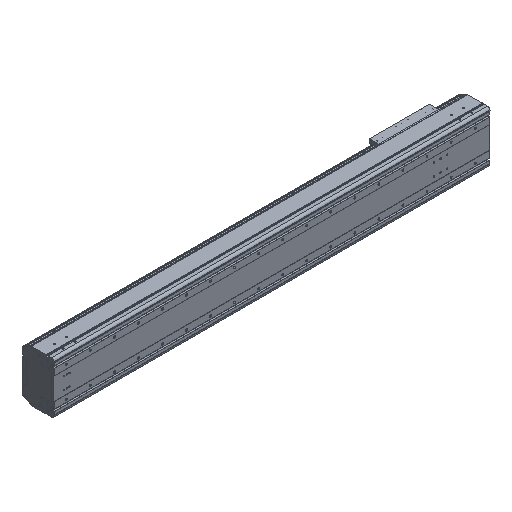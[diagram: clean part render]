
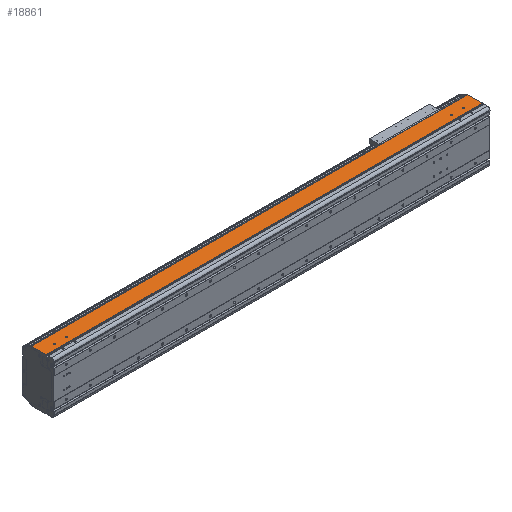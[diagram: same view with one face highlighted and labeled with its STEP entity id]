
A CAD part, isometric view. The second image highlights one B-rep face of the part: STEP entity #18861.
In plain terms, the highlighted planar face has unit normal (0, 0, 1).
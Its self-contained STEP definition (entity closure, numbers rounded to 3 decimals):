
#1618=DIRECTION('',(0.,-1.,0.));
#1619=VECTOR('',#1618,2.55);
#1620=CARTESIAN_POINT('',(0.,34.65,107.));
#1621=LINE('',#1620,#1619);
#2101=DIRECTION('',(1.,0.,0.));
#2102=VECTOR('',#2101,2.);
#2103=CARTESIAN_POINT('',(-1811.,34.65,107.));
#2104=LINE('',#2103,#2102);
#2105=CARTESIAN_POINT('',(-54.5,54.,107.));
#2106=DIRECTION('',(0.,0.,-1.));
#2107=DIRECTION('',(1.,0.,0.));
#2108=AXIS2_PLACEMENT_3D('',#2105,#2106,#2107);
#2110=CARTESIAN_POINT('',(-54.5,54.,107.));
#2111=DIRECTION('',(0.,0.,-1.));
#2112=DIRECTION('',(-1.,0.,0.));
#2113=AXIS2_PLACEMENT_3D('',#2110,#2111,#2112);
#2115=CARTESIAN_POINT('',(-104.5,54.,107.));
#2116=DIRECTION('',(0.,0.,-1.));
#2117=DIRECTION('',(1.,0.,0.));
#2118=AXIS2_PLACEMENT_3D('',#2115,#2116,#2117);
#2120=CARTESIAN_POINT('',(-104.5,54.,107.));
#2121=DIRECTION('',(0.,0.,-1.));
#2122=DIRECTION('',(-1.,0.,0.));
#2123=AXIS2_PLACEMENT_3D('',#2120,#2121,#2122);
#2125=CARTESIAN_POINT('',(-1754.5,54.,107.));
#2126=DIRECTION('',(0.,0.,-1.));
#2127=DIRECTION('',(1.,0.,0.));
#2128=AXIS2_PLACEMENT_3D('',#2125,#2126,#2127);
#2130=CARTESIAN_POINT('',(-1754.5,54.,107.));
#2131=DIRECTION('',(0.,0.,-1.));
#2132=DIRECTION('',(-1.,0.,0.));
#2133=AXIS2_PLACEMENT_3D('',#2130,#2131,#2132);
#2135=CARTESIAN_POINT('',(-1704.5,54.,107.));
#2136=DIRECTION('',(0.,0.,-1.));
#2137=DIRECTION('',(1.,0.,0.));
#2138=AXIS2_PLACEMENT_3D('',#2135,#2136,#2137);
#2140=CARTESIAN_POINT('',(-1704.5,54.,107.));
#2141=DIRECTION('',(0.,0.,-1.));
#2142=DIRECTION('',(-1.,0.,0.));
#2143=AXIS2_PLACEMENT_3D('',#2140,#2141,#2142);
#2145=DIRECTION('',(0.,-1.,0.));
#2146=VECTOR('',#2145,2.55);
#2147=CARTESIAN_POINT('',(-1809.,34.65,107.));
#2148=LINE('',#2147,#2146);
#2149=DIRECTION('',(0.,-1.,0.));
#2150=VECTOR('',#2149,58.85);
#2151=CARTESIAN_POINT('',(-1811.,93.5,107.));
#2152=LINE('',#2151,#2150);
#2153=DIRECTION('',(0.,1.,0.));
#2154=VECTOR('',#2153,58.85);
#2155=CARTESIAN_POINT('',(2.,34.65,107.));
#2156=LINE('',#2155,#2154);
#2157=DIRECTION('',(1.,0.,0.));
#2158=VECTOR('',#2157,1809.);
#2159=CARTESIAN_POINT('',(-1809.,32.1,107.));
#2160=LINE('',#2159,#2158);
#2265=DIRECTION('',(-1.,0.,0.));
#2266=VECTOR('',#2265,1813.);
#2267=CARTESIAN_POINT('',(2.,93.5,107.));
#2268=LINE('',#2267,#2266);
#11714=DIRECTION('',(1.,0.,0.));
#11715=VECTOR('',#11714,2.);
#11716=CARTESIAN_POINT('',(0.,34.65,107.));
#11717=LINE('',#11716,#11715);
#12964=CARTESIAN_POINT('',(-1811.,34.65,107.));
#12965=VERTEX_POINT('',#12964);
#12966=CARTESIAN_POINT('',(-1811.,93.5,107.));
#12967=VERTEX_POINT('',#12966);
#13196=CARTESIAN_POINT('',(-1809.,32.1,107.));
#13197=VERTEX_POINT('',#13196);
#13803=CARTESIAN_POINT('',(0.,32.1,107.));
#13804=VERTEX_POINT('',#13803);
#13805=CARTESIAN_POINT('',(-52.,54.,107.));
#13806=CARTESIAN_POINT('',(-57.,54.,107.));
#13807=VERTEX_POINT('',#13805);
#13808=VERTEX_POINT('',#13806);
#13809=CARTESIAN_POINT('',(-102.,54.,107.));
#13810=CARTESIAN_POINT('',(-107.,54.,107.));
#13811=VERTEX_POINT('',#13809);
#13812=VERTEX_POINT('',#13810);
#13813=CARTESIAN_POINT('',(-1752.,54.,107.));
#13814=CARTESIAN_POINT('',(-1757.,54.,107.));
#13815=VERTEX_POINT('',#13813);
#13816=VERTEX_POINT('',#13814);
#13817=CARTESIAN_POINT('',(-1702.,54.,107.));
#13818=CARTESIAN_POINT('',(-1707.,54.,107.));
#13819=VERTEX_POINT('',#13817);
#13820=VERTEX_POINT('',#13818);
#15051=CARTESIAN_POINT('',(2.,34.65,107.));
#15052=VERTEX_POINT('',#15051);
#15053=CARTESIAN_POINT('',(2.,93.5,107.));
#15054=VERTEX_POINT('',#15053);
#15397=CARTESIAN_POINT('',(0.,34.65,107.));
#15398=VERTEX_POINT('',#15397);
#15585=CARTESIAN_POINT('',(-1809.,34.65,107.));
#15586=VERTEX_POINT('',#15585);
#18819=CARTESIAN_POINT('',(-904.5,62.8,107.));
#18820=DIRECTION('',(0.,0.,1.));
#18821=DIRECTION('',(0.,-1.,0.));
#18822=AXIS2_PLACEMENT_3D('',#18819,#18820,#18821);
#18823=PLANE('',#18822);
#18824=ORIENTED_EDGE('',*,*,#17071,.F.);
#18825=ORIENTED_EDGE('',*,*,#18814,.F.);
#18826=ORIENTED_EDGE('',*,*,#17700,.F.);
#18828=ORIENTED_EDGE('',*,*,#18827,.F.);
#18829=ORIENTED_EDGE('',*,*,#16810,.F.);
#18831=ORIENTED_EDGE('',*,*,#18830,.F.);
#18832=ORIENTED_EDGE('',*,*,#18421,.T.);
#18834=ORIENTED_EDGE('',*,*,#18833,.F.);
#18835=EDGE_LOOP('',(#18824,#18825,#18826,#18828,#18829,#18831,#18832,#18834));
#18836=FACE_OUTER_BOUND('',#18835,.F.);
#18838=ORIENTED_EDGE('',*,*,#18837,.F.);
#18840=ORIENTED_EDGE('',*,*,#18839,.F.);
#18841=EDGE_LOOP('',(#18838,#18840));
#18842=FACE_BOUND('',#18841,.F.);
#18844=ORIENTED_EDGE('',*,*,#18843,.F.);
#18846=ORIENTED_EDGE('',*,*,#18845,.F.);
#18847=EDGE_LOOP('',(#18844,#18846));
#18848=FACE_BOUND('',#18847,.F.);
#18850=ORIENTED_EDGE('',*,*,#18849,.F.);
#18852=ORIENTED_EDGE('',*,*,#18851,.F.);
#18853=EDGE_LOOP('',(#18850,#18852));
#18854=FACE_BOUND('',#18853,.F.);
#18856=ORIENTED_EDGE('',*,*,#18855,.F.);
#18858=ORIENTED_EDGE('',*,*,#18857,.F.);
#18859=EDGE_LOOP('',(#18856,#18858));
#18860=FACE_BOUND('',#18859,.F.);
#18861=ADVANCED_FACE('',(#18836,#18842,#18848,#18854,#18860),#18823,.T.);
#2109=CIRCLE('',#2108,2.5);
#2114=CIRCLE('',#2113,2.5);
#2119=CIRCLE('',#2118,2.5);
#2124=CIRCLE('',#2123,2.5);
#2129=CIRCLE('',#2128,2.5);
#2134=CIRCLE('',#2133,2.5);
#2139=CIRCLE('',#2138,2.5);
#2144=CIRCLE('',#2143,2.5);
#16810=EDGE_CURVE('',#15052,#15054,#2156,.T.);
#17071=EDGE_CURVE('',#15586,#13197,#2148,.T.);
#17700=EDGE_CURVE('',#12967,#12965,#2152,.T.);
#18421=EDGE_CURVE('',#15398,#13804,#1621,.T.);
#18814=EDGE_CURVE('',#12965,#15586,#2104,.T.);
#18827=EDGE_CURVE('',#15054,#12967,#2268,.T.);
#18830=EDGE_CURVE('',#15398,#15052,#11717,.T.);
#18833=EDGE_CURVE('',#13197,#13804,#2160,.T.);
#18837=EDGE_CURVE('',#13811,#13812,#2119,.T.);
#18839=EDGE_CURVE('',#13812,#13811,#2124,.T.);
#18843=EDGE_CURVE('',#13815,#13816,#2129,.T.);
#18845=EDGE_CURVE('',#13816,#13815,#2134,.T.);
#18849=EDGE_CURVE('',#13819,#13820,#2139,.T.);
#18851=EDGE_CURVE('',#13820,#13819,#2144,.T.);
#18855=EDGE_CURVE('',#13807,#13808,#2109,.T.);
#18857=EDGE_CURVE('',#13808,#13807,#2114,.T.);
